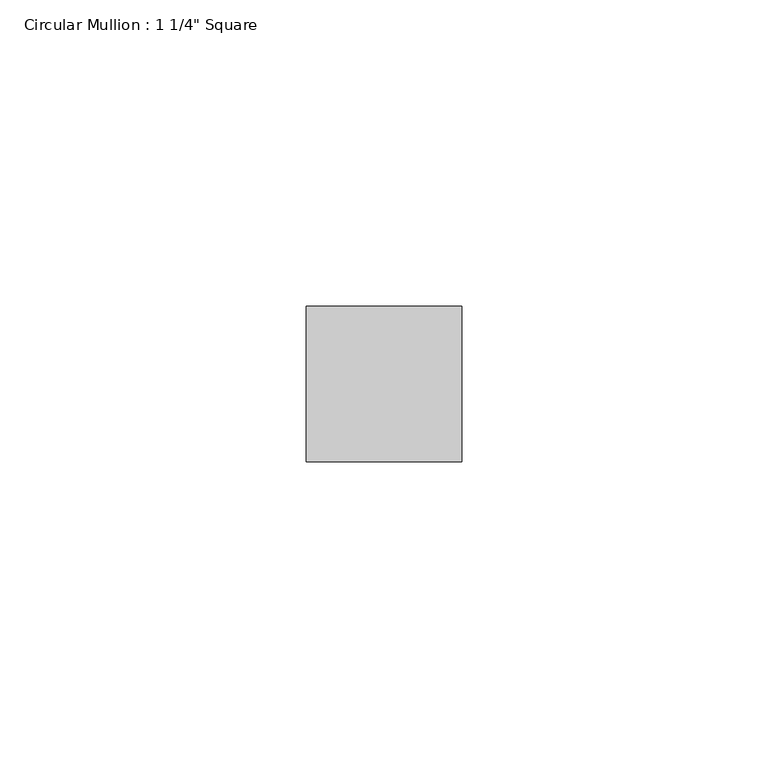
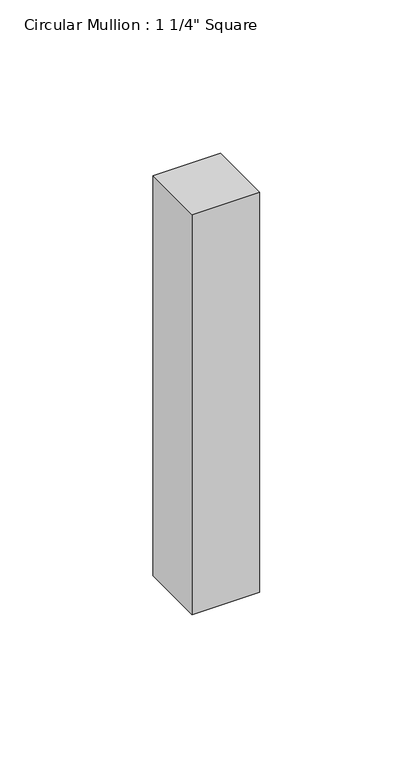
"""IFC4 building model written with IfcOpenShell, lengths in millimetres: member geometry."""

from ifc_helpers import new_model, si_unit, frame, origin, place, context, project, spatial, polyline, outline, extrude, source, transform, mapped, element, save


def member_f6062bf7(model_context):
    return source(origin(), model_context, "Body", "SweptSolid", [
        extrude(outline(polyline([(12.7, 12.7), (12.7, -12.7), (-12.7, -12.7), (-12.7, 12.7), (12.7, 12.7)])), frame((0.0, 0.0, -159.0876618), z_axis=(0.0, 0.0, 1.0), x_axis=(1.0, 0.0, 0.0)), (0.0, 0.0, 1.0), 159.0876618),
    ])


if __name__ == "__main__":
    model = new_model("IFC4")
    model_context = context("Model", 3, world=origin())
    ifc_project = project(units=[si_unit("LENGTHUNIT", "METRE", prefix="MILLI")], contexts=[model_context])
    site = spatial("IfcSite", under=ifc_project)
    building = spatial("IfcBuilding", under=site)
    placement = place(None, origin())
    member_shape = member_f6062bf7(model_context)
    element("IfcMember", 1, ObjectType="Circular Mullion : 1 1/4\" Square", at=placement, inside=building, context=model_context, shape_type="MappedRepresentation", body=[
        mapped(member_shape, transform((0.0, 0.0, 0.0), x_axis=(1.0, 0.0, 0.0), y_axis=(0.0, 1.0, 0.0), z_axis=(0.0, 0.0, 1.0))),
    ])
    save(model, "model.ifc")
